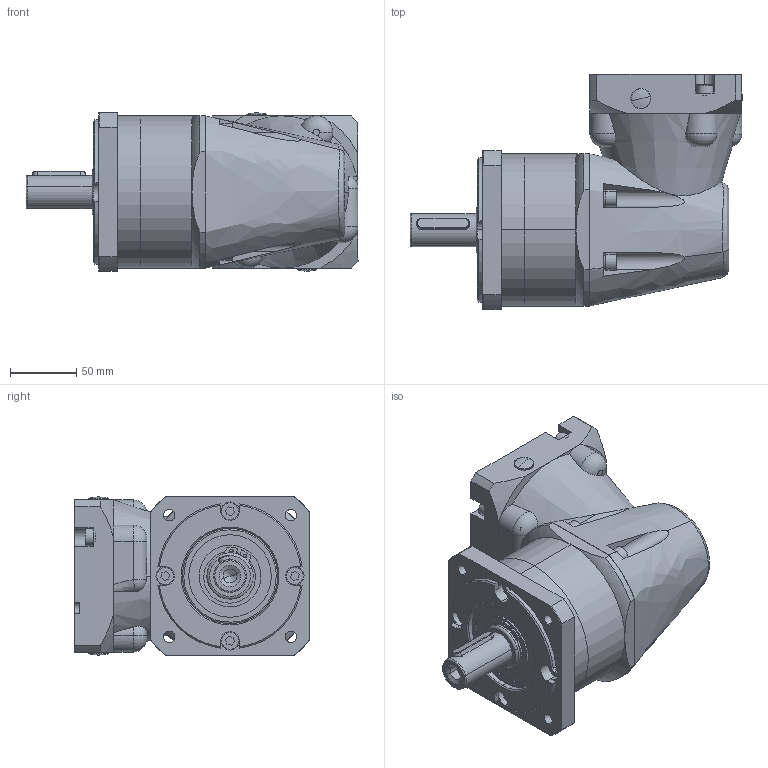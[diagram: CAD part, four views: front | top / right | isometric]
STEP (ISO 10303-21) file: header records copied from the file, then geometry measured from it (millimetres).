
FILE_DESCRIPTION (( 'STEP AP203' ), '1' );
FILE_NAME ('WPF115L1-i-P2-S2-19-40-70-90-M6.step', '2020-03-30T09:01:31', ( '个人用户' ), ( '微软中国' ), 'SwSTEP 2.0', 'SolidWorks 2018', '' );
FILE_SCHEMA (( 'CONFIG_CONTROL_DESIGN' ));
Length unit declared in the file: millimetre
Products named in the file (1): WPF115L1-i-P2-S2-19-40-70-90-M6
Bounding box: 251 x 177.5 x 120 mm (x, y, z)
Volume: 1639214.6 mm3; surface area: 375141.2 mm2
Topology: 37 solids, 37 shells, 1177 faces, 2797 edges, 1766 vertices
Faces by surface type: cylinder 409, plane 377, torus 158, cone 145, sphere 78, bspline 10
Entity records: 40260 total; most frequent: CARTESIAN_POINT 12449, DIRECTION 6141, ORIENTED_EDGE 5526, EDGE_CURVE 2763, AXIS2_PLACEMENT_3D 2522, VERTEX_POINT 1766, EDGE_LOOP 1367, CIRCLE 1354
